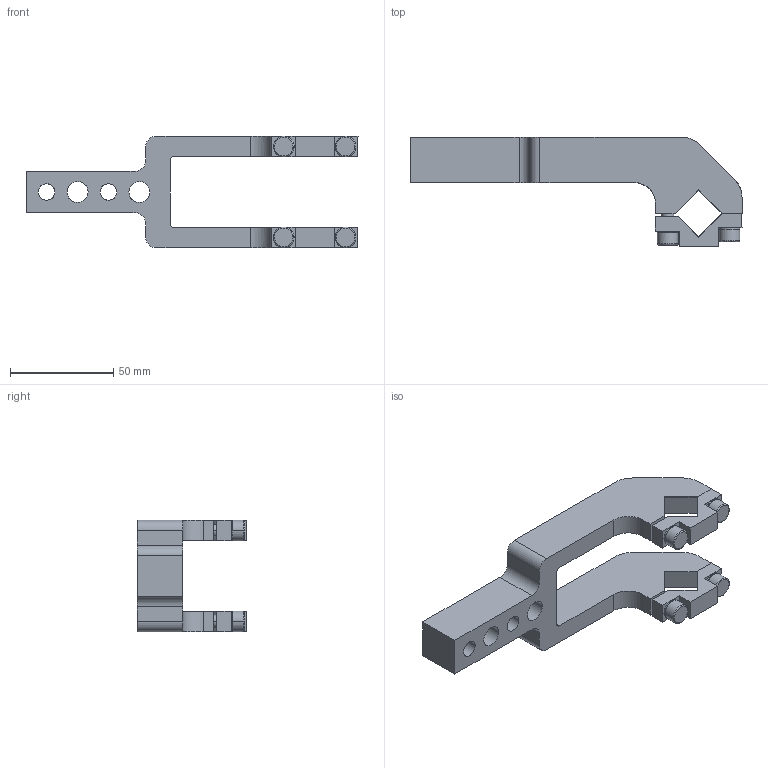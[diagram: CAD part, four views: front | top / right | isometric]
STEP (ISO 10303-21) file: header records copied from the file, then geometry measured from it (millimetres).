
FILE_DESCRIPTION(('CATIA V5 STEP Exchange'),'2;1');
FILE_NAME('E:\clampact\CLAMPACT\clampact\3D\Clampact Arm-3D\Clampact Arm-3D\K40-15-A90-S_Clampact.stp','2024-06-11T09:04:00+00:00',('none'),('none'),'CATIA Version 5 Release 19 SP 6 (IN-10)','CATIA V5 STEP AP203','none');
FILE_SCHEMA(('CONFIG_CONTROL_DESIGN'));
Length unit declared in the file: millimetre
Products named in the file (1): K40-15-A90-S_Clampact
Bounding box: 161 x 53 x 54 mm (x, y, z)
Volume: 86100.7 mm3; surface area: 28555.6 mm2
Topology: 1 solids, 5 shells, 158 faces, 404 edges, 256 vertices
Faces by surface type: plane 76, cylinder 48, cone 22, torus 12
Entity records: 5337 total; most frequent: CARTESIAN_POINT 1820, ORIENTED_EDGE 792, DIRECTION 553, EDGE_CURVE 396, VERTEX_POINT 256, VECTOR 239, LINE 239, AXIS2_PLACEMENT_3D 204
